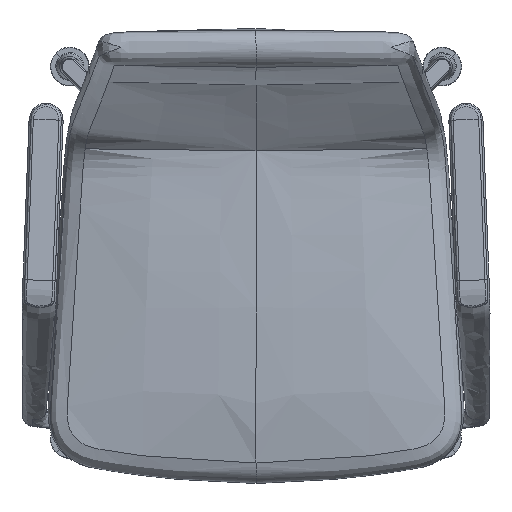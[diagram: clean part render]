
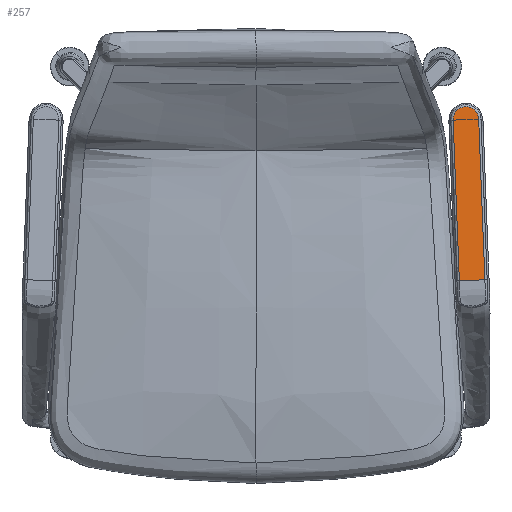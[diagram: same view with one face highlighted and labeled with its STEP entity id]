
A CAD part, top view. The second image highlights one B-rep face of the part: STEP entity #257.
In plain terms, the highlighted planar face has unit normal (-0.001, 0.068, 0.998).
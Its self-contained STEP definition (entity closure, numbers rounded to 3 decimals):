
#78=PLANE('',#3399);
#257=ADVANCED_FACE('',(#486),#78,.T.);
#486=FACE_OUTER_BOUND('',#715,.T.);
#715=EDGE_LOOP('',(#1295,#1296));
#1295=ORIENTED_EDGE('',*,*,#2043,.T.);
#1296=ORIENTED_EDGE('',*,*,#2050,.F.);
#2043=EDGE_CURVE('',#2996,#2991,#2476,.T.);
#2050=EDGE_CURVE('',#2996,#2991,#2691,.T.);
#2476=B_SPLINE_CURVE_WITH_KNOTS('',1,(#6432,#6433),.UNSPECIFIED.,.F.,.F.,
(2,2),(0.077,0.923),.UNSPECIFIED.);
#2691=(
BOUNDED_CURVE()
B_SPLINE_CURVE(3,(#6495,#6496,#6497,#6498,#6499,#6500,#6501,#6502,#6503,
#6504,#6505,#6506,#6507,#6508,#6509,#6510,#6511,#6512,#6513,#6514,#6515,
#6516,#6517),.UNSPECIFIED.,.F.,.F.)
B_SPLINE_CURVE_WITH_KNOTS((4,3,3,1,1,1,1,1,1,1,3,3,4),(0.,
4.793,208.24,214.719,221.199,227.678,
234.157,240.637,247.116,253.596,260.075,
463.522,468.315),.UNSPECIFIED.)
CURVE()
GEOMETRIC_REPRESENTATION_ITEM()
RATIONAL_B_SPLINE_CURVE((1.,1.,1.,1.,1.,1.,1.,1.,1.,1.,1.,
1.,1.,1.,1.,1.,1.,1.,
1.,1.,1.,1.,1.))
REPRESENTATION_ITEM('')
);
#2991=VERTEX_POINT('',#6313);
#2996=VERTEX_POINT('',#6318);
#3399=AXIS2_PLACEMENT_3D('',#5955,#3434,$);
#3434=DIRECTION('',(-0.001,0.068,0.998));
#5955=CARTESIAN_POINT('',(289.75,191.229,639.23));
#6313=CARTESIAN_POINT('',(295.503,-35.93,654.737));
#6318=CARTESIAN_POINT('',(262.527,-37.196,654.799));
#6432=CARTESIAN_POINT('',(262.527,-37.196,654.799));
#6433=CARTESIAN_POINT('',(295.503,-35.93,654.737));
#6495=CARTESIAN_POINT('',(262.527,-37.196,654.799));
#6496=CARTESIAN_POINT('',(262.466,-35.604,654.69));
#6497=CARTESIAN_POINT('',(262.404,-34.011,654.582));
#6498=CARTESIAN_POINT('',(262.343,-32.418,654.473));
#6499=CARTESIAN_POINT('',(259.738,35.19,649.857));
#6500=CARTESIAN_POINT('',(257.131,102.798,645.241));
#6501=CARTESIAN_POINT('',(254.526,170.407,640.625));
#6502=CARTESIAN_POINT('',(254.441,172.559,640.478));
#6503=CARTESIAN_POINT('',(255.135,176.898,640.183));
#6504=CARTESIAN_POINT('',(258.591,182.515,639.802));
#6505=CARTESIAN_POINT('',(263.938,186.385,639.542));
#6506=CARTESIAN_POINT('',(270.363,187.918,639.442));
#6507=CARTESIAN_POINT('',(276.886,186.882,639.517));
#6508=CARTESIAN_POINT('',(282.516,183.434,639.757));
#6509=CARTESIAN_POINT('',(286.394,178.099,640.124));
#6510=CARTESIAN_POINT('',(287.419,173.826,640.416));
#6511=CARTESIAN_POINT('',(287.501,171.673,640.563));
#6512=CARTESIAN_POINT('',(290.107,104.065,645.179));
#6513=CARTESIAN_POINT('',(292.713,36.457,649.795));
#6514=CARTESIAN_POINT('',(295.319,-31.151,654.411));
#6515=CARTESIAN_POINT('',(295.38,-32.744,654.52));
#6516=CARTESIAN_POINT('',(295.442,-34.337,654.628));
#6517=CARTESIAN_POINT('',(295.503,-35.93,654.737));
